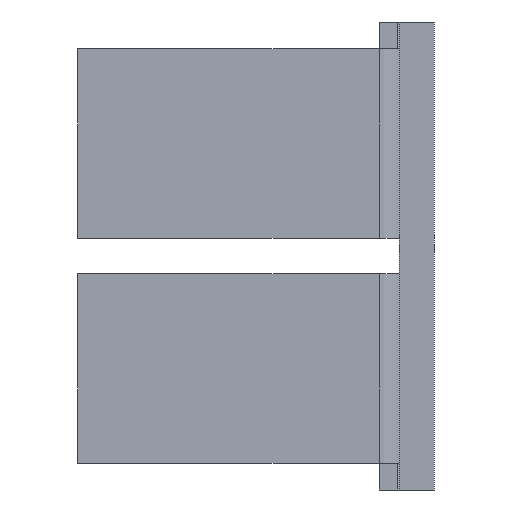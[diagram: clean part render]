
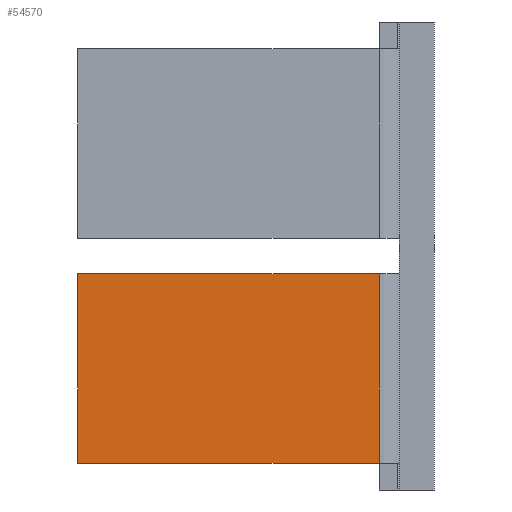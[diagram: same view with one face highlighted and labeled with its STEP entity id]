
A CAD part, left-side view. The second image highlights one B-rep face of the part: STEP entity #54570.
In plain terms, the highlighted planar face has unit normal (-1, 0, 0).
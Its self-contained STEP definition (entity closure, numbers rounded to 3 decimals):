
#481 = DIRECTION ( 'NONE',  ( 0., 1., 0. ) ) ;
#2777 = VERTEX_POINT ( 'NONE', #36794 ) ;
#4294 = EDGE_CURVE ( 'NONE', #2777, #53904, #6428, .T. ) ;
#5365 = CARTESIAN_POINT ( 'NONE',  ( -244.6, 6.434, -35.434 ) ) ;
#6428 = LINE ( 'NONE', #41909, #24810 ) ;
#8454 = DIRECTION ( 'NONE',  ( 0., -1., 0. ) ) ;
#13433 = EDGE_CURVE ( 'NONE', #29128, #2777, #24326, .T. ) ;
#13499 = AXIS2_PLACEMENT_3D ( 'NONE', #55722, #16201, #33798 ) ;
#15145 = LINE ( 'NONE', #37643, #38278 ) ;
#15911 = FACE_OUTER_BOUND ( 'NONE', #56140, .T. ) ;
#16201 = DIRECTION ( 'NONE',  ( -1., 0., 0. ) ) ;
#18204 = ORIENTED_EDGE ( 'NONE', *, *, #4294, .F. ) ;
#21579 = CARTESIAN_POINT ( 'NONE',  ( -244.6, 58., -3. ) ) ;
#23465 = DIRECTION ( 'NONE',  ( 0., 0., 1. ) ) ;
#24326 = LINE ( 'NONE', #5365, #30227 ) ;
#24810 = VECTOR ( 'NONE', #23465, 1000. ) ;
#24946 = DIRECTION ( 'NONE',  ( 0., 0., 1. ) ) ;
#28686 = CARTESIAN_POINT ( 'NONE',  ( -244.6, 6.434, -35.434 ) ) ;
#29128 = VERTEX_POINT ( 'NONE', #28686 ) ;
#29166 = EDGE_CURVE ( 'NONE', #29128, #49695, #15145, .T. ) ;
#30227 = VECTOR ( 'NONE', #481, 1000. ) ;
#33323 = LINE ( 'NONE', #50917, #40315 ) ;
#33798 = DIRECTION ( 'NONE',  ( 0., -1., 0. ) ) ;
#36794 = CARTESIAN_POINT ( 'NONE',  ( -244.6, 58., -35.434 ) ) ;
#37643 = CARTESIAN_POINT ( 'NONE',  ( -244.6, 6.434, -40. ) ) ;
#38102 = PLANE ( 'NONE',  #13499 ) ;
#38278 = VECTOR ( 'NONE', #24946, 1000. ) ;
#40315 = VECTOR ( 'NONE', #8454, 1000. ) ;
#40794 = ORIENTED_EDGE ( 'NONE', *, *, #13433, .F. ) ;
#41909 = CARTESIAN_POINT ( 'NONE',  ( -244.6, 58., -40. ) ) ;
#42235 = ORIENTED_EDGE ( 'NONE', *, *, #44504, .F. ) ;
#44504 = EDGE_CURVE ( 'NONE', #53904, #49695, #33323, .T. ) ;
#47689 = CARTESIAN_POINT ( 'NONE',  ( -244.6, 6.434, -3. ) ) ;
#49695 = VERTEX_POINT ( 'NONE', #47689 ) ;
#50917 = CARTESIAN_POINT ( 'NONE',  ( -244.6, 6.434, -3. ) ) ;
#53904 = VERTEX_POINT ( 'NONE', #21579 ) ;
#54570 = ADVANCED_FACE ( 'NONE', ( #15911 ), #38102, .T. ) ;
#55266 = ORIENTED_EDGE ( 'NONE', *, *, #29166, .T. ) ;
#55722 = CARTESIAN_POINT ( 'NONE',  ( -244.6, 6.434, -40. ) ) ;
#56140 = EDGE_LOOP ( 'NONE', ( #40794, #55266, #42235, #18204 ) ) ;
